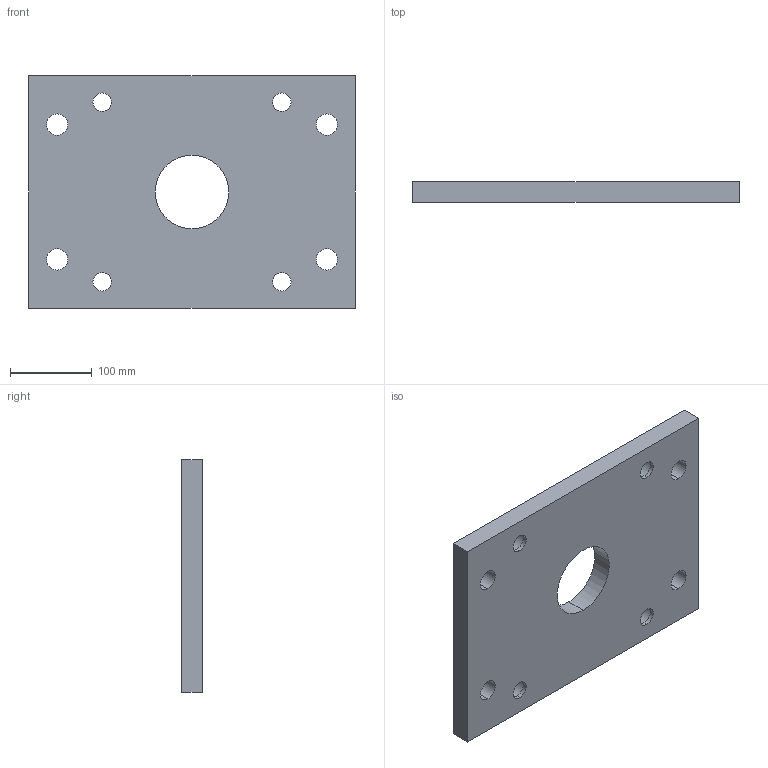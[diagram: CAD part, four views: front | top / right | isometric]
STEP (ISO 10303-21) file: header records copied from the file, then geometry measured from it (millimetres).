
FILE_DESCRIPTION (( 'STEP AP214' ), '1' );
FILE_NAME ('FLI-250.STEP', '2012-11-07T13:13:44', ( '' ), ( '' ), 'SwSTEP 2.0', 'SolidWorks 2009', '' );
FILE_SCHEMA (( 'AUTOMOTIVE_DESIGN' ));
Length unit declared in the file: millimetre
Products named in the file (1): FLI-250
Bounding box: 400 x 25 x 285 mm (x, y, z)
Volume: 2561487.9 mm3; surface area: 267042.5 mm2
Topology: 1 solids, 1 shells, 36 faces, 90 edges, 60 vertices
Faces by surface type: cylinder 26, plane 10
Entity records: 1176 total; most frequent: DIRECTION 216, CARTESIAN_POINT 187, ORIENTED_EDGE 180, EDGE_CURVE 90, AXIS2_PLACEMENT_3D 89, VERTEX_POINT 60, EDGE_LOOP 58, CIRCLE 52
